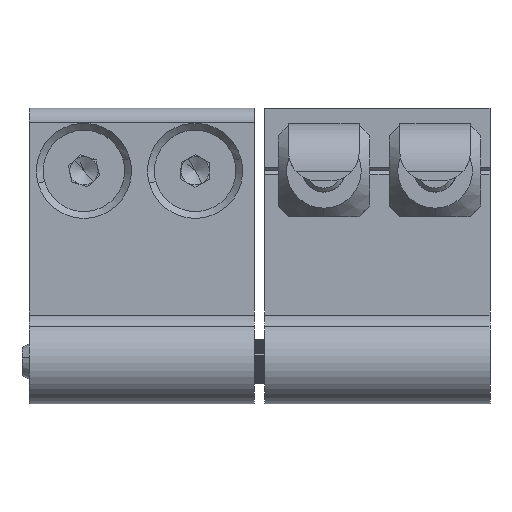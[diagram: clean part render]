
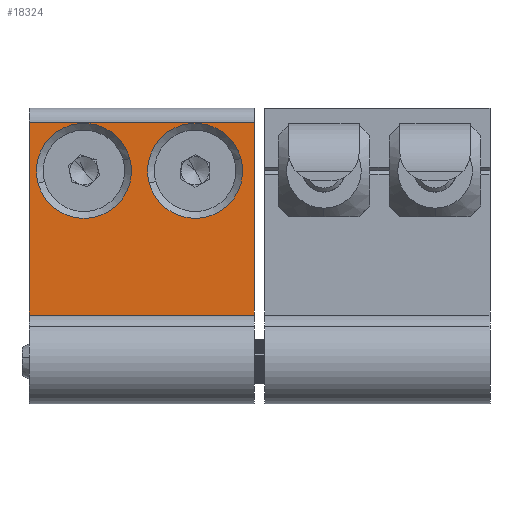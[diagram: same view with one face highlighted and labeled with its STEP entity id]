
A CAD part, front view. The second image highlights one B-rep face of the part: STEP entity #18324.
In plain terms, the highlighted planar face has unit normal (0, -1, 0).
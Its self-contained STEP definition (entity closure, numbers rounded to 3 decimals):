
#51 = AXIS2_PLACEMENT_3D ( 'NONE', #3130, #1296, #14689 ) ;
#264 = CARTESIAN_POINT ( 'NONE',  ( 647.224, 864.424, 1251.162 ) ) ;
#795 = DIRECTION ( 'NONE',  ( 0., -1., 0. ) ) ;
#1296 = DIRECTION ( 'NONE',  ( 0., -1., 0. ) ) ;
#1497 = VERTEX_POINT ( 'NONE', #7105 ) ;
#1770 = CIRCLE ( 'NONE', #27423, 6.75 ) ;
#1825 = CARTESIAN_POINT ( 'NONE',  ( 664.307, 864.424, 1269.887 ) ) ;
#1846 = ORIENTED_EDGE ( 'NONE', *, *, #5273, .T. ) ;
#2498 = CARTESIAN_POINT ( 'NONE',  ( 661.54, 864.424, 1273.408 ) ) ;
#3013 = DIRECTION ( 'NONE',  ( 0., -1., 0. ) ) ;
#3130 = CARTESIAN_POINT ( 'NONE',  ( 679.864, 864.424, 1264.855 ) ) ;
#3245 = VECTOR ( 'NONE', #7517, 1000. ) ;
#3397 = CARTESIAN_POINT ( 'NONE',  ( 679.224, 864.424, 1251.162 ) ) ;
#3910 = VECTOR ( 'NONE', #17306, 1000. ) ;
#4527 = EDGE_CURVE ( 'NONE', #14369, #1497, #1770, .T. ) ;
#4784 = CARTESIAN_POINT ( 'NONE',  ( 647.224, 864.424, 1278.548 ) ) ;
#5175 = CARTESIAN_POINT ( 'NONE',  ( 679.224, 864.424, 1278.548 ) ) ;
#5194 = DIRECTION ( 'NONE',  ( 1., 0., 0. ) ) ;
#5232 = ORIENTED_EDGE ( 'NONE', *, *, #4527, .F. ) ;
#5273 = EDGE_CURVE ( 'NONE', #24309, #11407, #26362, .T. ) ;
#5597 = VERTEX_POINT ( 'NONE', #1825 ) ;
#5669 = ORIENTED_EDGE ( 'NONE', *, *, #13514, .F. ) ;
#7105 = CARTESIAN_POINT ( 'NONE',  ( 648.507, 864.424, 1269.887 ) ) ;
#7151 = AXIS2_PLACEMENT_3D ( 'NONE', #28831, #3013, #12299 ) ;
#7517 = DIRECTION ( 'NONE',  ( 0., 0., -1. ) ) ;
#7804 = CARTESIAN_POINT ( 'NONE',  ( 647.224, 864.424, 1278.548 ) ) ;
#7950 = CARTESIAN_POINT ( 'NONE',  ( 655.024, 864.424, 1271.648 ) ) ;
#8319 = CARTESIAN_POINT ( 'NONE',  ( 679.224, 864.424, 1278.548 ) ) ;
#8534 = VECTOR ( 'NONE', #23794, 1000. ) ;
#9116 = EDGE_LOOP ( 'NONE', ( #27894, #5232 ) ) ;
#9390 = FACE_BOUND ( 'NONE', #9116, .T. ) ;
#10086 = DIRECTION ( 'NONE',  ( -1., 0., 0. ) ) ;
#11265 = ORIENTED_EDGE ( 'NONE', *, *, #15979, .T. ) ;
#11407 = VERTEX_POINT ( 'NONE', #7804 ) ;
#11443 = AXIS2_PLACEMENT_3D ( 'NONE', #13130, #18170, #27048 ) ;
#11586 = CARTESIAN_POINT ( 'NONE',  ( 647.224, 864.424, 1251.162 ) ) ;
#11780 = FACE_OUTER_BOUND ( 'NONE', #23800, .T. ) ;
#11828 = CARTESIAN_POINT ( 'NONE',  ( 679.224, 864.424, 1251.162 ) ) ;
#11970 = VERTEX_POINT ( 'NONE', #264 ) ;
#12207 = CIRCLE ( 'NONE', #19024, 6.75 ) ;
#12299 = DIRECTION ( 'NONE',  ( -1., 0., 0. ) ) ;
#13130 = CARTESIAN_POINT ( 'NONE',  ( 670.824, 864.424, 1271.648 ) ) ;
#13514 = EDGE_CURVE ( 'NONE', #5597, #29576, #12207, .T. ) ;
#14160 = EDGE_LOOP ( 'NONE', ( #5669, #18167 ) ) ;
#14298 = ORIENTED_EDGE ( 'NONE', *, *, #23022, .T. ) ;
#14369 = VERTEX_POINT ( 'NONE', #2498 ) ;
#14689 = DIRECTION ( 'NONE',  ( 0., 0., -1. ) ) ;
#15095 = DIRECTION ( 'NONE',  ( 0., -1., 0. ) ) ;
#15212 = VECTOR ( 'NONE', #5194, 1000. ) ;
#15361 = EDGE_CURVE ( 'NONE', #29576, #5597, #24562, .T. ) ;
#15979 = EDGE_CURVE ( 'NONE', #11407, #11970, #21396, .T. ) ;
#17004 = VERTEX_POINT ( 'NONE', #11828 ) ;
#17082 = CARTESIAN_POINT ( 'NONE',  ( 670.824, 864.424, 1271.648 ) ) ;
#17306 = DIRECTION ( 'NONE',  ( -1., 0., 0. ) ) ;
#17410 = LINE ( 'NONE', #3397, #8534 ) ;
#18167 = ORIENTED_EDGE ( 'NONE', *, *, #15361, .F. ) ;
#18170 = DIRECTION ( 'NONE',  ( 0., -1., 0. ) ) ;
#18324 = ADVANCED_FACE ( 'NONE', ( #11780, #9390, #18666 ), #28162, .T. ) ;
#18666 = FACE_BOUND ( 'NONE', #14160, .T. ) ;
#19024 = AXIS2_PLACEMENT_3D ( 'NONE', #17082, #15095, #24207 ) ;
#19804 = CARTESIAN_POINT ( 'NONE',  ( 677.34, 864.424, 1273.408 ) ) ;
#21396 = LINE ( 'NONE', #4784, #3245 ) ;
#23022 = EDGE_CURVE ( 'NONE', #11970, #17004, #25998, .T. ) ;
#23794 = DIRECTION ( 'NONE',  ( 0., 0., 1. ) ) ;
#23800 = EDGE_LOOP ( 'NONE', ( #14298, #24168, #1846, #11265 ) ) ;
#24168 = ORIENTED_EDGE ( 'NONE', *, *, #25188, .T. ) ;
#24207 = DIRECTION ( 'NONE',  ( 1., 0., 0. ) ) ;
#24309 = VERTEX_POINT ( 'NONE', #5175 ) ;
#24562 = CIRCLE ( 'NONE', #11443, 6.75 ) ;
#24623 = CIRCLE ( 'NONE', #7151, 6.75 ) ;
#25188 = EDGE_CURVE ( 'NONE', #17004, #24309, #17410, .T. ) ;
#25998 = LINE ( 'NONE', #11586, #15212 ) ;
#26362 = LINE ( 'NONE', #8319, #3910 ) ;
#26410 = EDGE_CURVE ( 'NONE', #1497, #14369, #24623, .T. ) ;
#27048 = DIRECTION ( 'NONE',  ( 1., 0., 0. ) ) ;
#27423 = AXIS2_PLACEMENT_3D ( 'NONE', #7950, #795, #10086 ) ;
#27894 = ORIENTED_EDGE ( 'NONE', *, *, #26410, .F. ) ;
#28162 = PLANE ( 'NONE',  #51 ) ;
#28831 = CARTESIAN_POINT ( 'NONE',  ( 655.024, 864.424, 1271.648 ) ) ;
#29576 = VERTEX_POINT ( 'NONE', #19804 ) ;
